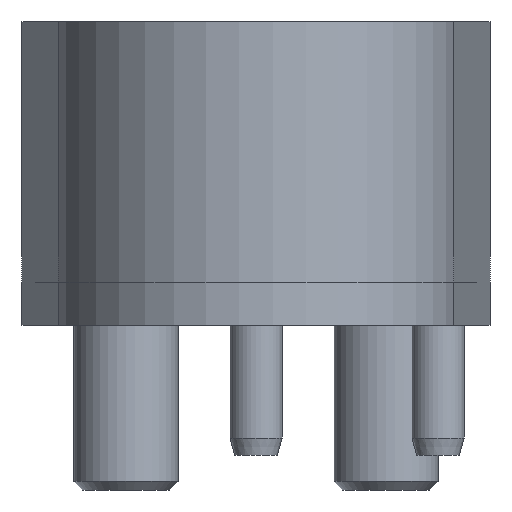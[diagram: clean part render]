
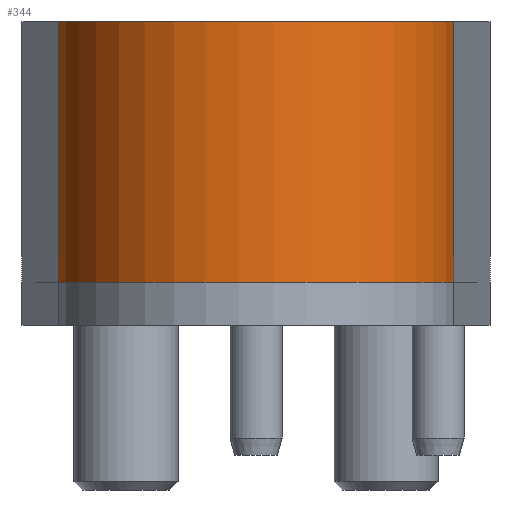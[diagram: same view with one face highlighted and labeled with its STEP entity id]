
A CAD part, left-side view. The second image highlights one B-rep face of the part: STEP entity #344.
In plain terms, the highlighted cylindrical face has radius 23 mm (diameter 46 mm), a partial arc.
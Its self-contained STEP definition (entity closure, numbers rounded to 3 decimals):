
#255=CYLINDRICAL_SURFACE('',#2702,23.);
#344=ADVANCED_FACE('',(#521),#255,.T.);
#521=FACE_OUTER_BOUND('',#673,.T.);
#673=EDGE_LOOP('',(#1167,#1168,#1169,#1170));
#859=CIRCLE('',#2700,23.);
#860=CIRCLE('',#2701,23.);
#1167=ORIENTED_EDGE('',*,*,#1975,.T.);
#1168=ORIENTED_EDGE('',*,*,#1976,.F.);
#1169=ORIENTED_EDGE('',*,*,#1977,.F.);
#1170=ORIENTED_EDGE('',*,*,#1978,.T.);
#1715=VERTEX_POINT('',#3979);
#1716=VERTEX_POINT('',#3980);
#1717=VERTEX_POINT('',#3982);
#1718=VERTEX_POINT('',#3984);
#1975=EDGE_CURVE('',#1715,#1716,#2263,.T.);
#1976=EDGE_CURVE('',#1717,#1716,#859,.T.);
#1977=EDGE_CURVE('',#1718,#1717,#2264,.T.);
#1978=EDGE_CURVE('',#1718,#1715,#860,.T.);
#2263=LINE('',#3978,#2455);
#2264=LINE('',#3983,#2456);
#2455=VECTOR('',#3155,1.);
#2456=VECTOR('',#3158,1.);
#2700=AXIS2_PLACEMENT_3D('',#3981,#3156,#3157);
#2701=AXIS2_PLACEMENT_3D('',#3985,#3159,#3160);
#2702=AXIS2_PLACEMENT_3D('',#3986,#3161,#3162);
#3155=DIRECTION('',(0.,0.,1.));
#3156=DIRECTION('',(0.,0.,1.));
#3157=DIRECTION('',(-0.106,0.994,0.));
#3158=DIRECTION('',(0.,0.,1.));
#3159=DIRECTION('',(0.,0.,1.));
#3160=DIRECTION('',(-0.106,0.994,0.));
#3161=DIRECTION('',(0.,0.,1.));
#3162=DIRECTION('',(-1.,0.,0.));
#3978=CARTESIAN_POINT('',(-3.085,-22.792,5.));
#3979=CARTESIAN_POINT('',(-3.085,-22.792,5.));
#3980=CARTESIAN_POINT('',(-3.085,-22.792,35.));
#3981=CARTESIAN_POINT('',(0.,0.,35.));
#3982=CARTESIAN_POINT('',(-3.085,22.792,35.));
#3983=CARTESIAN_POINT('',(-3.085,22.792,5.));
#3984=CARTESIAN_POINT('',(-3.085,22.792,5.));
#3985=CARTESIAN_POINT('',(0.,0.,5.));
#3986=CARTESIAN_POINT('',(0.,0.,0.));
